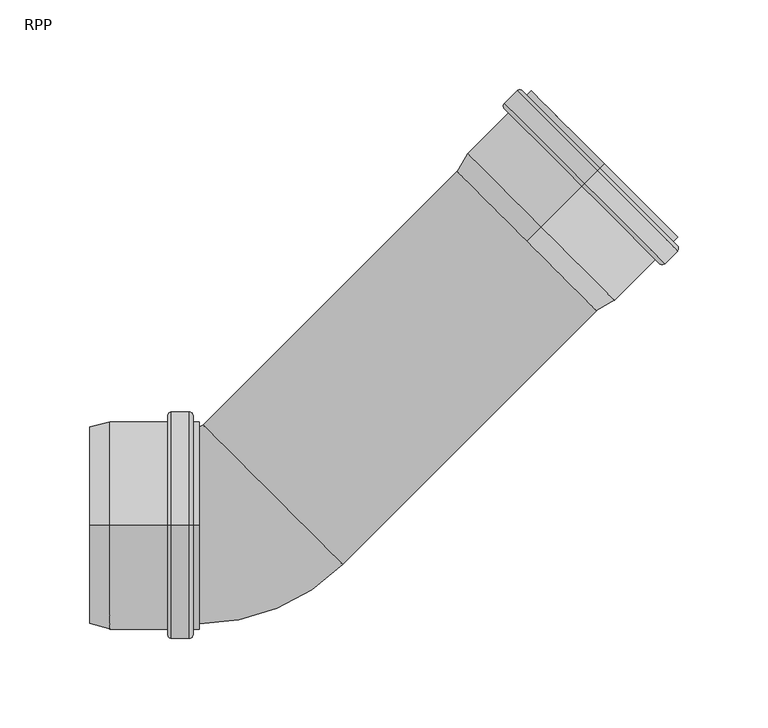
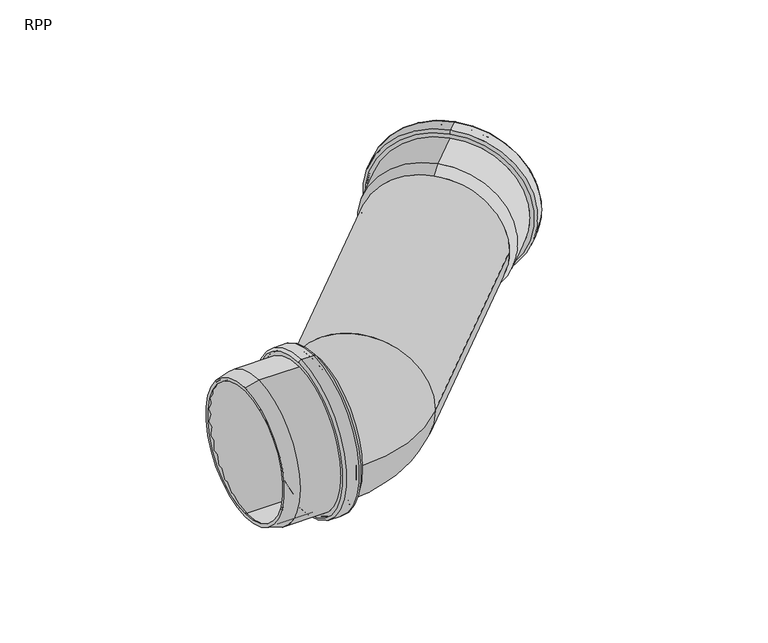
"""IFC4 building model written with IfcOpenShell, lengths in millimetres: pipe fitting geometry, RAUPIANO PLUS Deflection Bend : RPP."""

import ifcopenshell
import ifcopenshell.guid

model = None  # the IFC model being written
_history = None  # IfcOwnerHistory: only IFC2X3 demands one
_inside = {}  # id of a spatial element -> (the spatial element, [elements in it])
_under = {}  # id of a project, library or spatial element -> (it, [spatial elements below it])
_declared = {}  # id of a project -> (the project, [libraries it declares])
_typed = {}  # id of a type object -> (the type object, [elements of that type])
_made_of = {}  # id of a material, layer set ... -> (it, [elements and type objects made of it])


def new_model(schema):
    """Start an empty IFC model of exactly this schema.

    Asked for "IFC4X3", IfcOpenShell would pick the latest addendum, in which some entities
    have other attributes; the version numbers below select the first issue.
    IFC2X3 requires an IfcOwnerHistory on every rooted entity: one is made here for all.
    """
    global model, _history
    if schema == "IFC4X3":
        model = ifcopenshell.file(schema_version=(4, 3, 0, 0))
    else:
        model = ifcopenshell.file(schema=schema)
    _inside.clear()
    _under.clear()
    _declared.clear()
    _typed.clear()
    _made_of.clear()
    _history = None
    if model.schema == "IFC2X3":
        org = make("IfcOrganization", Name="unknown")
        user = make(
            "IfcPersonAndOrganization",
            ThePerson=make("IfcPerson", FamilyName="unknown"),
            TheOrganization=org,
        )
        app = make(
            "IfcApplication",
            ApplicationDeveloper=org,
            Version="unknown",
            ApplicationFullName="unknown",
            ApplicationIdentifier="unknown",
        )
        _history = make(
            "IfcOwnerHistory",
            OwningUser=user,
            OwningApplication=app,
            ChangeAction="ADDED",
            CreationDate=0,
        )
    return model


def make(cls, **values):
    """One entity of the class cls with the attributes given. An attribute that is None is left unset."""
    return model.create_entity(
        cls, **{name: value for name, value in values.items() if value is not None}
    )


def rooted(cls, **values):
    """An entity with a GlobalId (a new one), such as an element, a storey or a relation."""
    return make(cls, GlobalId=ifcopenshell.guid.new(), OwnerHistory=_history, **values)


def si_unit(unit_type, name, prefix=None):
    """IfcSIUnit, for example si_unit("LENGTHUNIT", "METRE", prefix="MILLI")."""
    return make("IfcSIUnit", UnitType=unit_type, Prefix=prefix, Name=name)


def assignment(units):
    """IfcUnitAssignment: the units of a project."""
    return None if units is None else make("IfcUnitAssignment", Units=units)


def point(xyz):
    """IfcCartesianPoint."""
    return None if xyz is None else make("IfcCartesianPoint", Coordinates=xyz)


def direction(xyz):
    """IfcDirection."""
    return None if xyz is None else make("IfcDirection", DirectionRatios=xyz)


def frame(location, z_axis=None, x_axis=None):
    """IfcAxis2Placement3D, a coordinate frame: its origin and axes. An axis left out is left unset."""
    return make(
        "IfcAxis2Placement3D",
        Location=point(location),
        Axis=direction(z_axis),
        RefDirection=direction(x_axis),
    )


def origin():
    """The frame at (0, 0, 0) with its axes left unset."""
    return frame((0.0, 0.0, 0.0))


def place(relative_to, where):
    """IfcLocalPlacement: puts the frame where relative to a parent placement (None: the world)."""
    return make(
        "IfcLocalPlacement", PlacementRelTo=relative_to, RelativePlacement=where
    )


def context(
    kind, dimensions, precision=None, world=None, true_north=None, identifier=None
):
    """IfcGeometricRepresentationContext, for example the 3D "Model" context."""
    return make(
        "IfcGeometricRepresentationContext",
        ContextIdentifier=identifier,
        ContextType=kind,
        CoordinateSpaceDimension=dimensions,
        Precision=precision,
        WorldCoordinateSystem=world,
        TrueNorth=true_north,
    )


def project(units=None, contexts=None):
    """IfcProject with its units and contexts."""
    return rooted(
        "IfcProject",
        Name="project",
        RepresentationContexts=contexts,
        UnitsInContext=assignment(units),
    )


def spatial(cls, under=None, at=None, **own):
    """A site, building, storey or space (cls), placed at a placement, below another one or the project."""
    s = rooted(cls, ObjectPlacement=at, **own)
    if under is not None:
        _under.setdefault(under.id(), (under, []))[1].append(s)
    return s


def polyline(points):
    """IfcPolyline through the points."""
    return make("IfcPolyline", Points=[point(p) for p in points])


def circle_curve(where, radius):
    """IfcCircle in the frame where."""
    return make("IfcCircle", Position=where, Radius=radius)


def ellipse_curve(where, semi_axis1, semi_axis2):
    """IfcEllipse in the frame where."""
    return make(
        "IfcEllipse", Position=where, SemiAxis1=semi_axis1, SemiAxis2=semi_axis2
    )


def trimmed(basis, trim1, trim2, sense, master):
    """IfcTrimmedCurve: the piece of a basis curve between two trims."""
    return make(
        "IfcTrimmedCurve",
        BasisCurve=basis,
        Trim1=trim1,
        Trim2=trim2,
        SenseAgreement=sense,
        MasterRepresentation=master,
    )


def shape(context_of_items, identifier, shape_type, items):
    """IfcShapeRepresentation: the items that make up one representation, for example the "Body"."""
    return make(
        "IfcShapeRepresentation",
        ContextOfItems=context_of_items,
        RepresentationIdentifier=identifier,
        RepresentationType=shape_type,
        Items=items,
    )


def source(mapping_origin, context_of_items, identifier, shape_type, items):
    """IfcRepresentationMap: a shape defined once, which mapped items show again and again."""
    return make(
        "IfcRepresentationMap",
        MappingOrigin=mapping_origin,
        MappedRepresentation=shape(context_of_items, identifier, shape_type, items),
    )


def transform(
    local_origin,
    x_axis=None,
    y_axis=None,
    z_axis=None,
    scale=None,
    scale2=None,
    scale3=None,
    uniform=True,
):
    """IfcCartesianTransformationOperator3D, or its non-uniform kind. x_axis, y_axis, z_axis: its Axis1, 2, 3."""
    if uniform:
        return make(
            "IfcCartesianTransformationOperator3D",
            Axis1=direction(x_axis),
            Axis2=direction(y_axis),
            LocalOrigin=point(local_origin),
            Scale=scale,
            Axis3=direction(z_axis),
        )
    return make(
        "IfcCartesianTransformationOperator3DnonUniform",
        Axis1=direction(x_axis),
        Axis2=direction(y_axis),
        LocalOrigin=point(local_origin),
        Scale=scale,
        Axis3=direction(z_axis),
        Scale2=scale2,
        Scale3=scale3,
    )


def mapped(mapping_source, mapping_target):
    """IfcMappedItem: shows the shape of a source again, moved by a transform."""
    return make(
        "IfcMappedItem", MappingSource=mapping_source, MappingTarget=mapping_target
    )


def made_of(thing, what):
    """Note that an element or type object is made of a material, layer set ...; save() writes the relation."""
    if what is not None:
        _made_of.setdefault(what.id(), (what, []))[1].append(thing)
    return thing


def element(
    cls,
    number,
    at=None,
    inside=None,
    cuts=None,
    type_object=None,
    material=None,
    context=None,
    identifier="Body",
    shape_type=None,
    held_by="IfcProductDefinitionShape",
    body=None,
    shapes=None,
    **own,
):
    """One element of the class cls, such as IfcWall. Its Tag is "e" and its number.

    at: its placement. inside: the storey or other place that contains it. cuts: it is an
    opening in that element (IfcRelVoidsElement). A single representation is given by context,
    identifier, shape_type and body (its items); several are given by shapes. held_by: the class
    of the entity that holds the representations. save() writes the other relations.
    """
    e = rooted(cls, Tag="e%d" % number, ObjectPlacement=at, **own)
    if body is not None:
        shapes = [shape(context, identifier, shape_type, body)]
    if shapes is not None:
        e.Representation = make(held_by, Representations=shapes)
    if inside is not None:
        _inside.setdefault(inside.id(), (inside, []))[1].append(e)
    if cuts is not None:
        rooted(
            "IfcRelVoidsElement", RelatingBuildingElement=cuts, RelatedOpeningElement=e
        )
    if type_object is not None:
        _typed.setdefault(type_object.id(), (type_object, []))[1].append(e)
    return made_of(e, material)


def aggregate(whole, parts):
    """IfcRelAggregates: a whole, such as a stair, and the parts it consists of."""
    return rooted("IfcRelAggregates", RelatingObject=whole, RelatedObjects=parts)


def save(model, path):
    """Write the relations noted so far, then the file.

    IfcRelAggregates (storeys below a building ...), IfcRelContainedInSpatialStructure (elements
    in a storey), IfcRelDefinesByType, IfcRelAssociatesMaterial and IfcRelDeclares: one each for
    every whole, place, type object, material and project.
    """
    for whole, parts in _under.values():
        aggregate(whole, parts)
    for where, things in _inside.values():
        rooted(
            "IfcRelContainedInSpatialStructure",
            RelatedElements=things,
            RelatingStructure=where,
        )
    for kind, things in _typed.values():
        rooted("IfcRelDefinesByType", RelatedObjects=things, RelatingType=kind)
    for what, things in _made_of.values():
        rooted("IfcRelAssociatesMaterial", RelatedObjects=things, RelatingMaterial=what)
    for by, libraries in _declared.values():
        rooted("IfcRelDeclares", RelatingContext=by, RelatedDefinitions=libraries)
    model.write(path)


def plane_surface(at):
    """IfcPlane: the flat surface through the origin of the frame at, square to its z axis."""
    return make("IfcPlane", Position=at)


def cylinder_surface(at, radius):
    """IfcCylindricalSurface: all points at the distance radius from the z axis of the frame at."""
    return make("IfcCylindricalSurface", Position=at, Radius=radius)


def revolved_surface(curve, axis_point, axis_direction):
    """IfcSurfaceOfRevolution: the curve turned about the line through axis_point along axis_direction."""
    return make(
        "IfcSurfaceOfRevolution",
        SweptCurve=make("IfcArbitraryOpenProfileDef", ProfileType="CURVE", Curve=curve),
        AxisPosition=make("IfcAxis1Placement", Location=point(axis_point), Axis=direction(axis_direction)),
    )


def advanced_brep(points, edges, surfaces, faces):
    """IfcAdvancedBrep: a solid bounded by faces that lie on surfaces and meet in shared edges.

    An edge is (start, end): straight between two places in points (the first is 0);
    or (start, end, curve); or (start, end, curve, False) where it runs against its curve.
    A face is (place in surfaces, loops), or (place, loops, False) where it looks against
    its surface's normal. A loop lists edges by number (the first is 1), with a minus sign
    where the edge is run from its end to its start. The first loop is the outer one.
    """
    corners = [point(p) for p in points]
    vertices = [make("IfcVertexPoint", VertexGeometry=c) for c in corners]
    made = []
    for start, end, *more in edges:
        made.append(
            make(
                "IfcEdgeCurve",
                EdgeStart=vertices[start],
                EdgeEnd=vertices[end],
                EdgeGeometry=more[0] if more else make("IfcPolyline", Points=[corners[start], corners[end]]),
                SameSense=more[1] if len(more) > 1 else True,
            )
        )
    hull = []
    for where, loops, *sense in faces:
        bounds = []
        for j, loop in enumerate(loops):
            ring = [make("IfcOrientedEdge", EdgeElement=made[abs(k) - 1], Orientation=k > 0) for k in loop]
            bounds.append(
                make(
                    "IfcFaceOuterBound" if j == 0 else "IfcFaceBound",
                    Bound=make("IfcEdgeLoop", EdgeList=ring),
                    Orientation=True,
                )
            )
        hull.append(make("IfcAdvancedFace", Bounds=bounds, FaceSurface=surfaces[where], SameSense=sense[0] if sense else True))
    return make("IfcAdvancedBrep", Outer=make("IfcClosedShell", CfsFaces=hull))


def rpp_50d5fbeb(model_context):
    return source(origin(), model_context, "Body", "AdvancedBrep", [
        advanced_brep(
        [(-38.9243866, 0.0, 55.3), (-38.9243866, 0.0, -55.3), (-73.5727725, 0.0, -55.3), (-73.5727725, 0.0, 55.3), (-38.4243866, 0.0, 60.7), (-38.4243866, 0.0, -60.7), (-38.9243866, 0.0, -60.2), (-38.9243866, 0.0, 60.2), (-30.7243866, 0.0, 60.7), (-30.7243866, 0.0, -60.7), (-30.2243866, 0.0, 60.2), (-30.2243866, 0.0, -60.2), (-24.0243866, 0.0, 55.3), (-24.0243866, 0.0, -55.3), (-30.2243866, 0.0, -55.3), (-30.2243866, 0.0, 55.3), (-27.5243866, 0.0, 58.0), (-27.5243866, 0.0, -58.0), (-24.0243866, 0.0, -58.0), (-24.0243866, 0.0, 58.0), (-29.5243866, 0.0, 63.4), (-29.5243866, 0.0, -63.4), (-27.5243866, 0.0, -61.4), (-27.5243866, 0.0, 61.4), (-39.6243866, 0.0, 63.4), (-39.6243866, 0.0, -63.4), (-41.6243866, 0.0, 61.4), (-41.6243866, 0.0, -61.4), (-73.9282342, 0.0, 58.0), (-73.9282342, 0.0, -58.0), (-41.6243866, 0.0, -58.0), (-41.6243866, 0.0, 58.0), (-85.1243866, 0.0, 55.0), (-85.1243866, 0.0, -55.0), (-85.1243866, 0.0, -52.2047543), (-85.1243866, 0.0, 52.2047543)],
        [
            (0, 1, circle_curve(frame((-38.9243866, 0.0, 0.0), z_axis=(1.0, 0.0, 0.0), x_axis=(0.0, 0.0, -1.0)), 55.3)),
            (1, 2),
            (2, 3, circle_curve(frame((-73.5727725, 0.0, 0.0), z_axis=(-1.0, 0.0, 0.0), x_axis=(0.0, 0.0, -1.0)), 55.3)),
            (3, 0),
            (4, 5, circle_curve(frame((-38.4243866, 0.0, 0.0), z_axis=(1.0, 0.0, 0.0), x_axis=(0.0, 0.0, -1.0)), 60.7)),
            (5, 6, circle_curve(frame((-38.4243866, 0.0, -60.2), z_axis=(0.0, 1.0, 0.0), x_axis=(0.0, 0.0, 1.0)), 0.5)),
            (6, 7, circle_curve(frame((-38.9243866, 0.0, 0.0), z_axis=(-1.0, 0.0, 0.0), x_axis=(0.0, 0.0, -1.0)), 60.2)),
            (7, 4, circle_curve(frame((-38.4243866, 0.0, 60.2), z_axis=(0.0, 1.0, 0.0), x_axis=(0.0, 0.0, -1.0)), 0.5)),
            (8, 9, circle_curve(frame((-30.7243866, 0.0, 0.0), z_axis=(1.0, 0.0, 0.0), x_axis=(0.0, 0.0, -1.0)), 60.7)),
            (9, 5),
            (4, 8),
            (10, 11, circle_curve(frame((-30.2243866, 0.0, 0.0), z_axis=(1.0, 0.0, 0.0), x_axis=(0.0, 0.0, -1.0)), 60.2)),
            (11, 9, circle_curve(frame((-30.7243866, 0.0, -60.2), z_axis=(0.0, 1.0, 0.0), x_axis=(0.0, 0.0, 1.0)), 0.5)),
            (8, 10, circle_curve(frame((-30.7243866, 0.0, 60.2), z_axis=(0.0, 1.0, 0.0), x_axis=(0.0, 0.0, -1.0)), 0.5)),
            (12, 13, circle_curve(frame((-24.0243866, 0.0, 0.0), z_axis=(1.0, 0.0, 0.0), x_axis=(0.0, 0.0, -1.0)), 55.3)),
            (13, 14),
            (14, 15, circle_curve(frame((-30.2243866, 0.0, 0.0), z_axis=(-1.0, 0.0, 0.0), x_axis=(0.0, 0.0, -1.0)), 55.3)),
            (15, 12),
            (16, 17, circle_curve(frame((-27.5243866, 0.0, 0.0), z_axis=(1.0, 0.0, 0.0), x_axis=(0.0, 0.0, -1.0)), 58.0)),
            (17, 18),
            (18, 19, circle_curve(frame((-24.0243866, 0.0, 0.0), z_axis=(-1.0, 0.0, 0.0), x_axis=(0.0, 0.0, -1.0)), 58.0)),
            (19, 16),
            (20, 21, circle_curve(frame((-29.5243866, 0.0, 0.0), z_axis=(1.0, 0.0, 0.0), x_axis=(0.0, 0.0, -1.0)), 63.4)),
            (21, 22, circle_curve(frame((-29.5243866, 0.0, -61.4), z_axis=(0.0, -1.0, 0.0), x_axis=(0.0, 0.0, 1.0)), 2.0)),
            (22, 23, circle_curve(frame((-27.5243866, 0.0, 0.0), z_axis=(-1.0, 0.0, 0.0), x_axis=(0.0, 0.0, -1.0)), 61.4)),
            (23, 20, circle_curve(frame((-29.5243866, 0.0, 61.4), z_axis=(0.0, -1.0, 0.0), x_axis=(0.0, 0.0, -1.0)), 2.0)),
            (24, 25, circle_curve(frame((-39.6243866, 0.0, 0.0), z_axis=(1.0, 0.0, 0.0), x_axis=(0.0, 0.0, -1.0)), 63.4)),
            (25, 21),
            (20, 24),
            (26, 27, circle_curve(frame((-41.6243866, 0.0, 0.0), z_axis=(1.0, 0.0, 0.0), x_axis=(0.0, 0.0, -1.0)), 61.4)),
            (27, 25, circle_curve(frame((-39.6243866, 0.0, -61.4), z_axis=(0.0, -1.0, 0.0), x_axis=(0.0, 0.0, 1.0)), 2.0)),
            (24, 26, circle_curve(frame((-39.6243866, 0.0, 61.4), z_axis=(0.0, -1.0, 0.0), x_axis=(0.0, 0.0, -1.0)), 2.0)),
            (28, 29, circle_curve(frame((-73.9282342, 0.0, 0.0), z_axis=(1.0, 0.0, 0.0), x_axis=(0.0, 0.0, -1.0)), 58.0)),
            (29, 30),
            (30, 31, circle_curve(frame((-41.6243866, 0.0, 0.0), z_axis=(-1.0, 0.0, 0.0), x_axis=(0.0, 0.0, -1.0)), 58.0)),
            (31, 28),
            (32, 33, circle_curve(frame((-85.1243866, 0.0, 0.0), z_axis=(1.0, 0.0, 0.0), x_axis=(0.0, 0.0, -1.0)), 55.0)),
            (33, 29),
            (28, 32),
            (2, 34),
            (34, 35, circle_curve(frame((-85.1243866, 0.0, 0.0), z_axis=(-1.0, 0.0, 0.0), x_axis=(0.0, 0.0, -1.0)), 52.2047543)),
            (35, 3),
            (1, 0, circle_curve(frame((-38.9243866, 0.0, 0.0), z_axis=(1.0, 0.0, 0.0), x_axis=(0.0, 0.0, 1.0)), 55.3)),
            (3, 2, circle_curve(frame((-73.5727725, 0.0, 0.0), z_axis=(-1.0, 0.0, 0.0), x_axis=(0.0, 0.0, 1.0)), 55.3)),
            (6, 7, circle_curve(frame((-38.9243866, 0.0, 0.0), z_axis=(1.0, 0.0, 0.0), x_axis=(0.0, 0.0, 1.0)), 60.2)),
            (5, 4, circle_curve(frame((-38.4243866, 0.0, 0.0), z_axis=(1.0, 0.0, 0.0), x_axis=(0.0, 0.0, 1.0)), 60.7)),
            (9, 8, circle_curve(frame((-30.7243866, 0.0, 0.0), z_axis=(1.0, 0.0, 0.0), x_axis=(0.0, 0.0, 1.0)), 60.7)),
            (11, 10, circle_curve(frame((-30.2243866, 0.0, 0.0), z_axis=(1.0, 0.0, 0.0), x_axis=(0.0, 0.0, 1.0)), 60.2)),
            (14, 15, circle_curve(frame((-30.2243866, 0.0, 0.0), z_axis=(1.0, 0.0, 0.0), x_axis=(0.0, 0.0, 1.0)), 55.3)),
            (13, 12, circle_curve(frame((-24.0243866, 0.0, 0.0), z_axis=(1.0, 0.0, 0.0), x_axis=(0.0, 0.0, 1.0)), 55.3)),
            (18, 19, circle_curve(frame((-24.0243866, 0.0, 0.0), z_axis=(1.0, 0.0, 0.0), x_axis=(0.0, 0.0, 1.0)), 58.0)),
            (17, 16, circle_curve(frame((-27.5243866, 0.0, 0.0), z_axis=(1.0, 0.0, 0.0), x_axis=(0.0, 0.0, 1.0)), 58.0)),
            (22, 23, circle_curve(frame((-27.5243866, 0.0, 0.0), z_axis=(1.0, 0.0, 0.0), x_axis=(0.0, 0.0, 1.0)), 61.4)),
            (21, 20, circle_curve(frame((-29.5243866, 0.0, 0.0), z_axis=(1.0, 0.0, 0.0), x_axis=(0.0, 0.0, 1.0)), 63.4)),
            (25, 24, circle_curve(frame((-39.6243866, 0.0, 0.0), z_axis=(1.0, 0.0, 0.0), x_axis=(0.0, 0.0, 1.0)), 63.4)),
            (27, 26, circle_curve(frame((-41.6243866, 0.0, 0.0), z_axis=(1.0, 0.0, 0.0), x_axis=(0.0, 0.0, 1.0)), 61.4)),
            (30, 31, circle_curve(frame((-41.6243866, 0.0, 0.0), z_axis=(1.0, 0.0, 0.0), x_axis=(0.0, 0.0, 1.0)), 58.0)),
            (29, 28, circle_curve(frame((-73.9282342, 0.0, 0.0), z_axis=(1.0, 0.0, 0.0), x_axis=(0.0, 0.0, 1.0)), 58.0)),
            (33, 32, circle_curve(frame((-85.1243866, 0.0, 0.0), z_axis=(1.0, 0.0, 0.0), x_axis=(0.0, 0.0, 1.0)), 55.0)),
            (34, 35, circle_curve(frame((-85.1243866, 0.0, 0.0), z_axis=(1.0, 0.0, 0.0), x_axis=(0.0, 0.0, 1.0)), 52.2047543)),
        ],
        [
            revolved_surface(polyline([(-73.5727725, 0.0, -55.3), (-38.9243866, 0.0, -55.3)]), (-85.1243866, 0.0, 0.0), (-1.0, 0.0, 0.0)),
            revolved_surface(trimmed(ellipse_curve(frame((-38.4243866, 0.0, -60.2), z_axis=(0.0, -1.0, 0.0), x_axis=(0.0, 0.0, 1.0)), 0.5, 0.5), [point((-38.9243866, 0.0, -60.2))], [point((-38.4243866, 0.0, -60.7))], True, "CARTESIAN"), (-85.1243866, 0.0, 0.0), (-1.0, 0.0, 0.0)),
            revolved_surface(polyline([(-38.4243866, 0.0, -60.7), (-30.724386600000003, 0.0, -60.7)]), (-85.1243866, 0.0, 0.0), (-1.0, 0.0, 0.0)),
            revolved_surface(trimmed(ellipse_curve(frame((-30.7243866, 0.0, -60.2), z_axis=(0.0, -1.0, 0.0), x_axis=(0.0, 0.0, 1.0)), 0.5, 0.5), [point((-30.7243866, 0.0, -60.7))], [point((-30.2243866, 0.0, -60.2))], True, "CARTESIAN"), (-85.1243866, 0.0, 0.0), (-1.0, 0.0, 0.0)),
            revolved_surface(polyline([(-30.224386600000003, 0.0, -55.3), (-24.0243866, 0.0, -55.3)]), (-85.1243866, 0.0, 0.0), (-1.0, 0.0, 0.0)),
            cylinder_surface(frame((-85.1243866, 0.0, 0.0), z_axis=(-1.0, 0.0, 0.0), x_axis=(0.0, 0.0, -1.0)), 58.0),
            revolved_surface(trimmed(ellipse_curve(frame((-29.5243866, 0.0, -61.4), z_axis=(0.0, 1.0, 0.0), x_axis=(0.0, 0.0, 1.0)), 2.0, 2.0), [point((-27.5243866, 0.0, -61.4))], [point((-29.5243866, 0.0, -63.4))], True, "CARTESIAN"), (-85.1243866, 0.0, 0.0), (-1.0, 0.0, 0.0)),
            cylinder_surface(frame((-85.1243866, 0.0, 0.0), z_axis=(-1.0, 0.0, 0.0), x_axis=(0.0, 0.0, -1.0)), 63.4),
            revolved_surface(trimmed(ellipse_curve(frame((-39.6243866, 0.0, -61.4), z_axis=(0.0, 1.0, 0.0), x_axis=(0.0, 0.0, 1.0)), 2.0, 2.0), [point((-39.6243866, 0.0, -63.4))], [point((-41.6243866, 0.0, -61.4))], True, "CARTESIAN"), (-85.1243866, 0.0, 0.0), (-1.0, 0.0, 0.0)),
            revolved_surface(polyline([(-73.9282342, 0.0, -58.0), (-85.1243866, 0.0, -55.0)]), (-85.1243866, 0.0, 0.0), (-1.0, 0.0, 0.0)),
            revolved_surface(polyline([(-85.1243866, 0.0, -52.2047543), (-73.5727725, 0.0, -55.3)]), (-85.1243866, 0.0, 0.0), (-1.0, 0.0, 0.0)),
            revolved_surface(polyline([(-73.5727725, 0.0, 55.3), (-38.9243866, 0.0, 55.3)]), (-85.1243866, 0.0, 0.0), (-1.0, 0.0, 0.0)),
            plane_surface(frame((-38.9243866, 0.0, 0.0), z_axis=(1.0, 0.0, 0.0), x_axis=(0.0, 0.0, 1.0))),
            revolved_surface(trimmed(ellipse_curve(frame((-38.4243866, 0.0, 60.2), z_axis=(0.0, 1.0, 0.0), x_axis=(0.0, 0.0, -1.0)), 0.5, 0.5), [point((-38.9243866, 0.0, 60.2))], [point((-38.4243866, 0.0, 60.7))], True, "CARTESIAN"), (-85.1243866, 0.0, 0.0), (-1.0, 0.0, 0.0)),
            revolved_surface(polyline([(-38.4243866, 0.0, 60.7), (-30.724386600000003, 0.0, 60.7)]), (-85.1243866, 0.0, 0.0), (-1.0, 0.0, 0.0)),
            revolved_surface(trimmed(ellipse_curve(frame((-30.7243866, 0.0, 60.2), z_axis=(0.0, 1.0, 0.0), x_axis=(0.0, 0.0, -1.0)), 0.5, 0.5), [point((-30.7243866, 0.0, 60.7))], [point((-30.2243866, 0.0, 60.2))], True, "CARTESIAN"), (-85.1243866, 0.0, 0.0), (-1.0, 0.0, 0.0)),
            plane_surface(frame((-30.2243866, 0.0, 0.0), z_axis=(-1.0, 0.0, 0.0), x_axis=(0.0, 0.0, 1.0))),
            revolved_surface(polyline([(-30.224386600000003, 0.0, 55.3), (-24.0243866, 0.0, 55.3)]), (-85.1243866, 0.0, 0.0), (-1.0, 0.0, 0.0)),
            plane_surface(frame((-24.0243866, 0.0, 0.0), z_axis=(1.0, 0.0, 0.0), x_axis=(0.0, 0.0, 1.0))),
            cylinder_surface(frame((-85.1243866, 0.0, 0.0), z_axis=(-1.0, 0.0, 0.0), x_axis=(0.0, 0.0, 1.0)), 58.0),
            plane_surface(frame((-27.5243866, 0.0, 0.0), z_axis=(1.0, 0.0, 0.0), x_axis=(0.0, 0.0, 1.0))),
            revolved_surface(trimmed(ellipse_curve(frame((-29.5243866, 0.0, 61.4), z_axis=(0.0, -1.0, 0.0), x_axis=(0.0, 0.0, -1.0)), 2.0, 2.0), [point((-27.5243866, 0.0, 61.4))], [point((-29.5243866, 0.0, 63.4))], True, "CARTESIAN"), (-85.1243866, 0.0, 0.0), (-1.0, 0.0, 0.0)),
            cylinder_surface(frame((-85.1243866, 0.0, 0.0), z_axis=(-1.0, 0.0, 0.0), x_axis=(0.0, 0.0, 1.0)), 63.4),
            revolved_surface(trimmed(ellipse_curve(frame((-39.6243866, 0.0, 61.4), z_axis=(0.0, -1.0, 0.0), x_axis=(0.0, 0.0, -1.0)), 2.0, 2.0), [point((-39.6243866, 0.0, 63.4))], [point((-41.6243866, 0.0, 61.4))], True, "CARTESIAN"), (-85.1243866, 0.0, 0.0), (-1.0, 0.0, 0.0)),
            plane_surface(frame((-41.6243866, 0.0, 0.0), z_axis=(-1.0, 0.0, 0.0), x_axis=(0.0, 0.0, 1.0))),
            revolved_surface(polyline([(-73.9282342, 0.0, 58.0), (-85.1243866, 0.0, 55.0)]), (-85.1243866, 0.0, 0.0), (-1.0, 0.0, 0.0)),
            plane_surface(frame((-85.1243866, 0.0, 0.0), z_axis=(-1.0, 0.0, 0.0), x_axis=(0.0, 0.0, 1.0))),
            revolved_surface(polyline([(-85.1243866, 0.0, 52.2047543), (-73.5727725, 0.0, 55.3)]), (-85.1243866, 0.0, 0.0), (-1.0, 0.0, 0.0)),
        ],
        [
            (0, [[1, 2, 3, 4]]),
            (1, [[5, 6, 7, 8]]),
            (2, [[9, 10, -5, 11]]),
            (3, [[12, 13, -9, 14]]),
            (4, [[15, 16, 17, 18]]),
            (5, [[19, 20, 21, 22]]),
            (6, [[23, 24, 25, 26]]),
            (7, [[27, 28, -23, 29]]),
            (8, [[30, 31, -27, 32]]),
            (5, [[33, 34, 35, 36]]),
            (9, [[37, 38, -33, 39]]),
            (10, [[-3, 40, 41, 42]]),
            (11, [[43, -4, 44, -2]]),
            (12, [[45, -7], [-43, -1]]),
            (13, [[46, -8, -45, -6]]),
            (14, [[47, -11, -46, -10]]),
            (15, [[48, -14, -47, -13]]),
            (16, [[-48, -12], [49, -17]]),
            (17, [[50, -18, -49, -16]]),
            (18, [[51, -21], [-50, -15]]),
            (19, [[52, -22, -51, -20]]),
            (20, [[53, -25], [-52, -19]]),
            (21, [[54, -26, -53, -24]]),
            (22, [[55, -29, -54, -28]]),
            (23, [[56, -32, -55, -31]]),
            (24, [[-56, -30], [57, -35]]),
            (19, [[58, -36, -57, -34]]),
            (25, [[59, -39, -58, -38]]),
            (26, [[-59, -37], [60, -41]]),
            (27, [[-44, -42, -60, -40]]),
        ],
    ),
        advanced_brep(
        [(-24.0243866, 0.0, -52.3), (-85.1243866, 0.0, -52.3), (-85.1243866, 0.0, 52.3), (-24.0243866, 0.0, 52.3), (-24.0243866, -52.3, 0.0), (-81.3923358, 0.0, 55.0), (-81.3923358, 0.0, -55.0), (-24.0243866, 0.0, -55.0), (-24.0243866, -55.0, 0.0), (-24.0243866, 0.0, 55.0), (-85.1243866, 0.0, 54.0), (-85.1243866, 0.0, -54.0), (-24.0243866, 52.3, 0.0), (-24.0243866, 55.0, 0.0), (-19.993878, 53.9694913, 0.0), (53.9694913, -19.993878, 0.0), (16.9878067, 16.9878067, -52.3), (16.9878067, 16.9878067, 52.3), (-21.9030663, 55.8786797, 0.0), (55.8786797, -21.9030663, 0.0), (16.9878067, 16.9878067, 55.0), (16.9878067, 16.9878067, -55.0), (197.3000359, 119.51829, 0.0), (119.51829, 197.3000359, 0.0), (195.3908476, 121.4274783, 0.0), (121.4274783, 195.3908476, 0.0)],
        [
            (0, 1),
            (1, 2, circle_curve(frame((-85.1243866, 0.0, 0.0), z_axis=(-1.0, 0.0, 0.0), x_axis=(0.0, 0.0, -1.0)), 52.3)),
            (2, 3),
            (3, 4, circle_curve(frame((-24.0243866, 0.0, 0.0), z_axis=(1.0, 0.0, 0.0), x_axis=(0.0, 0.0, -1.0)), 52.3)),
            (4, 0, circle_curve(frame((-24.0243866, 0.0, 0.0), z_axis=(1.0, 0.0, 0.0), x_axis=(0.0, 0.0, -1.0)), 52.3)),
            (5, 6, circle_curve(frame((-81.3923358, 0.0, 0.0), z_axis=(1.0, 0.0, 0.0), x_axis=(0.0, 0.0, -1.0)), 55.0)),
            (6, 7),
            (7, 8, circle_curve(frame((-24.0243866, 0.0, 0.0), z_axis=(-1.0, 0.0, 0.0), x_axis=(0.0, 0.0, -1.0)), 55.0)),
            (8, 9, circle_curve(frame((-24.0243866, 0.0, 0.0), z_axis=(-1.0, 0.0, 0.0), x_axis=(0.0, 0.0, -1.0)), 55.0)),
            (9, 5),
            (5, 10),
            (10, 11, circle_curve(frame((-85.1243866, 0.0, 0.0), z_axis=(1.0, 0.0, 0.0), x_axis=(0.0, 0.0, -1.0)), 54.0)),
            (11, 6),
            (0, 12, circle_curve(frame((-24.0243866, 0.0, 0.0), z_axis=(1.0, 0.0, 0.0), x_axis=(0.0, 0.0, 1.0)), 52.3)),
            (12, 3, circle_curve(frame((-24.0243866, 0.0, 0.0), z_axis=(1.0, 0.0, 0.0), x_axis=(0.0, 0.0, 1.0)), 52.3)),
            (2, 1, circle_curve(frame((-85.1243866, 0.0, 0.0), z_axis=(-1.0, 0.0, 0.0), x_axis=(0.0, 0.0, 1.0)), 52.3)),
            (6, 5, circle_curve(frame((-81.3923358, 0.0, 0.0), z_axis=(1.0, 0.0, 0.0), x_axis=(0.0, 0.0, 1.0)), 55.0)),
            (9, 13, circle_curve(frame((-24.0243866, 0.0, 0.0), z_axis=(-1.0, 0.0, 0.0), x_axis=(0.0, 0.0, 1.0)), 55.0)),
            (13, 7, circle_curve(frame((-24.0243866, 0.0, 0.0), z_axis=(-1.0, 0.0, 0.0), x_axis=(0.0, 0.0, 1.0)), 55.0)),
            (11, 10, circle_curve(frame((-85.1243866, 0.0, 0.0), z_axis=(1.0, 0.0, 0.0), x_axis=(0.0, 0.0, 1.0)), 54.0)),
            (14, 12, circle_curve(frame((-24.0243866, 58.0, 0.0), z_axis=(0.0, 0.0, -1.0), x_axis=(0.0, -1.0, 0.0)), 5.7)),
            (4, 15, circle_curve(frame((-24.0243866, 58.0, 0.0), z_axis=(0.0, 0.0, 1.0), x_axis=(0.0, -1.0, 0.0)), 110.3)),
            (15, 16, circle_curve(frame((16.9878067, 16.9878067, 0.0), z_axis=(0.7071067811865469, 0.7071067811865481, 0.0), x_axis=(-0.7071067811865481, 0.7071067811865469, 0.0)), 52.3)),
            (16, 14, circle_curve(frame((16.9878067, 16.9878067, 0.0), z_axis=(0.7071067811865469, 0.7071067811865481, 0.0), x_axis=(-0.7071067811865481, 0.7071067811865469, 0.0)), 52.3)),
            (14, 17, circle_curve(frame((16.9878067, 16.9878067, 0.0), z_axis=(0.7071067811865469, 0.7071067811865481, 0.0), x_axis=(-0.7071067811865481, 0.7071067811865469, 0.0)), 52.3)),
            (17, 15, circle_curve(frame((16.9878067, 16.9878067, 0.0), z_axis=(0.7071067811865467, 0.7071067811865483, 0.0), x_axis=(-0.7071067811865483, 0.7071067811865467, 0.0)), 52.3)),
            (18, 13, circle_curve(frame((-24.0243866, 58.0, 0.0), z_axis=(0.0, 0.0, -1.0), x_axis=(0.0, -1.0, 0.0)), 3.0)),
            (8, 19, circle_curve(frame((-24.0243866, 58.0, 0.0), z_axis=(0.0, 0.0, 1.0), x_axis=(0.0, -1.0, 0.0)), 113.0)),
            (19, 20, circle_curve(frame((16.9878067, 16.9878067, 0.0), z_axis=(-0.7071067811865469, -0.7071067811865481, 0.0), x_axis=(-0.7071067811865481, 0.7071067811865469, 0.0)), 55.0)),
            (20, 18, circle_curve(frame((16.9878067, 16.9878067, 0.0), z_axis=(-0.7071067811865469, -0.7071067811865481, 0.0), x_axis=(-0.7071067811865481, 0.7071067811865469, 0.0)), 55.0)),
            (18, 21, circle_curve(frame((16.9878067, 16.9878067, 0.0), z_axis=(-0.7071067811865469, -0.7071067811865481, 0.0), x_axis=(-0.7071067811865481, 0.7071067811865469, 0.0)), 55.0)),
            (21, 19, circle_curve(frame((16.9878067, 16.9878067, 0.0), z_axis=(-0.7071067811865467, -0.7071067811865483, 0.0), x_axis=(-0.7071067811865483, 0.7071067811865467, 0.0)), 55.0)),
            (22, 23, circle_curve(frame((158.4091629, 158.4091629, 0.0), z_axis=(0.7071067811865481, 0.707106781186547, 0.0), x_axis=(-0.707106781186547, 0.7071067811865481, 0.0)), 55.0)),
            (23, 22, circle_curve(frame((158.4091629, 158.4091629, 0.0), z_axis=(0.7071067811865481, 0.707106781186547, 0.0), x_axis=(-0.707106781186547, 0.7071067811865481, 0.0)), 55.0)),
            (24, 25, circle_curve(frame((158.4091629, 158.4091629, 0.0), z_axis=(-0.7071067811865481, -0.707106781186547, 0.0), x_axis=(-0.707106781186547, 0.7071067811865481, 0.0)), 52.3)),
            (25, 24, circle_curve(frame((158.4091629, 158.4091629, 0.0), z_axis=(-0.7071067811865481, -0.707106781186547, 0.0), x_axis=(-0.707106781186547, 0.7071067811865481, 0.0)), 52.3)),
            (25, 14),
            (15, 24),
            (23, 18),
            (19, 22),
        ],
        [
            revolved_surface(polyline([(-85.1243866, 0.0, -52.3), (-24.0243866, 0.0, -52.3)]), (-24.0243866, 0.0, 0.0), (-1.0, 0.0, 0.0)),
            cylinder_surface(frame((-24.0243866, 0.0, 0.0), z_axis=(-1.0, 0.0, 0.0), x_axis=(0.0, 0.0, -1.0)), 55.0),
            revolved_surface(polyline([(-81.3923358, 0.0, -55.0), (-85.1243866, 0.0, -54.0)]), (-24.0243866, 0.0, 0.0), (-1.0, 0.0, 0.0)),
            revolved_surface(polyline([(-85.1243866, 0.0, 52.3), (-24.0243866, 0.0, 52.3)]), (-24.0243866, 0.0, 0.0), (-1.0, 0.0, 0.0)),
            cylinder_surface(frame((-24.0243866, 0.0, 0.0), z_axis=(-1.0, 0.0, 0.0), x_axis=(0.0, 0.0, 1.0)), 55.0),
            revolved_surface(polyline([(-81.3923358, 0.0, 55.0), (-85.1243866, 0.0, 54.0)]), (-24.0243866, 0.0, 0.0), (-1.0, 0.0, 0.0)),
            plane_surface(frame((-85.1243866, 0.0, 0.0), z_axis=(-1.0, 0.0, 0.0), x_axis=(0.0, 0.0, 1.0))),
            revolved_surface(trimmed(ellipse_curve(frame((-24.0243866, 0.0, 0.0), z_axis=(1.0, 0.0, 0.0), x_axis=(0.0, 1.0, 0.0)), 52.3, 52.3), [point((-24.0243866, -52.3, 0.0))], [point((-24.0243866, 52.3, 0.0))], True, "CARTESIAN"), (-24.0243866, 58.0, 0.0), (0.0, 0.0, 1.0)),
            revolved_surface(trimmed(ellipse_curve(frame((-24.0243866, 0.0, 0.0), z_axis=(1.0, 0.0, 0.0), x_axis=(0.0, 1.0, 0.0)), 52.3, 52.3), [point((-24.0243866, 52.3, 0.0))], [point((-24.0243866, -52.3, 0.0))], True, "CARTESIAN"), (-24.0243866, 58.0, 0.0), (0.0, 0.0, 1.0)),
            revolved_surface(trimmed(ellipse_curve(frame((-24.0243866, 0.0, 0.0), z_axis=(-1.0, 0.0, 0.0), x_axis=(0.0, 1.0, 0.0)), 55.0, 55.0), [point((-24.0243866, -55.0, 0.0))], [point((-24.0243866, 55.0, 0.0))], True, "CARTESIAN"), (-24.0243866, 58.0, 0.0), (0.0, 0.0, 1.0)),
            revolved_surface(trimmed(ellipse_curve(frame((-24.0243866, 0.0, 0.0), z_axis=(-1.0, 0.0, 0.0), x_axis=(0.0, 1.0, 0.0)), 55.0, 55.0), [point((-24.0243866, 55.0, 0.0))], [point((-24.0243866, -55.0, 0.0))], True, "CARTESIAN"), (-24.0243866, 58.0, 0.0), (0.0, 0.0, 1.0)),
            plane_surface(frame((158.4091629, 158.4091629, 0.0), z_axis=(0.7071067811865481, 0.707106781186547, 0.0), x_axis=(0.0, 0.0, 1.0))),
            revolved_surface(polyline([(121.42747829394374, 195.39084760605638, 0.0), (-19.99387800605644, 53.96949130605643, 0.0)]), (16.9878067, 16.9878067, 0.0), (0.7071067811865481, 0.707106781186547, 0.0)),
            cylinder_surface(frame((16.9878067, 16.9878067, 0.0), z_axis=(-0.7071067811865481, -0.707106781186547, 0.0), x_axis=(-0.707106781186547, 0.7071067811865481, 0.0)), 55.0),
        ],
        [
            (0, [[1, 2, 3, 4, 5]]),
            (1, [[6, 7, 8, 9, 10]]),
            (2, [[-6, 11, 12, 13]]),
            (3, [[-1, 14, 15, -3, 16]]),
            (4, [[-7, 17, -10, 18, 19]]),
            (5, [[-13, 20, -11, -17]]),
            (6, [[-12, -20], [-2, -16]]),
            (7, [[21, -14, -5, 22, 23, 24]]),
            (8, [[-21, 25, 26, -22, -4, -15]]),
            (9, [[27, -18, -9, 28, 29, 30]]),
            (10, [[-27, 31, 32, -28, -8, -19]]),
            (11, [[33, 34], [35, 36]]),
            (12, [[-36, 37, -24, -23, 38]]),
            (12, [[-35, -38, -26, -25, -37]]),
            (13, [[-34, 39, -30, -29, 40]]),
            (13, [[-33, -40, -32, -31, -39]]),
        ],
    ),
        advanced_brep(
        [(158.4091629, 158.4091629, 52.2047543), (158.4091629, 158.4091629, -52.2047543), (166.5773876, 166.5773876, -55.3), (166.5773876, 166.5773876, 55.3), (166.3260382, 166.3260382, 58.0), (166.3260382, 166.3260382, -58.0), (158.4091629, 158.4091629, -55.0), (158.4091629, 158.4091629, 55.0), (189.1683079, 189.1683079, 58.0), (189.1683079, 189.1683079, -58.0), (190.5825215, 190.5825215, 63.4), (190.5825215, 190.5825215, -63.4), (189.1683079, 189.1683079, -61.4), (189.1683079, 189.1683079, 61.4), (197.7243, 197.7243, 63.4), (197.7243, 197.7243, -63.4), (199.1385135, 199.1385135, 61.4), (199.1385135, 199.1385135, -61.4), (201.6133873, 201.6133873, 58.0), (201.6133873, 201.6133873, -58.0), (199.1385135, 199.1385135, -58.0), (199.1385135, 199.1385135, 58.0), (197.2293252, 197.2293252, 55.3), (197.2293252, 197.2293252, -55.3), (201.6133873, 201.6133873, -55.3), (201.6133873, 201.6133873, 55.3), (196.8757718, 196.8757718, 60.7), (196.8757718, 196.8757718, -60.7), (197.2293252, 197.2293252, -60.2), (197.2293252, 197.2293252, 60.2), (191.4310496, 191.4310496, 60.7), (191.4310496, 191.4310496, -60.7), (191.0774962, 191.0774962, 60.2), (191.0774962, 191.0774962, -60.2), (191.0774962, 191.0774962, -55.3), (191.0774962, 191.0774962, 55.3)],
        [
            (0, 1, circle_curve(frame((158.4091629, 158.4091629, 0.0), z_axis=(-0.7071067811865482, -0.7071067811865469, 0.0), x_axis=(0.0, 0.0, -1.0)), 52.2047543)),
            (1, 2),
            (2, 3, circle_curve(frame((166.5773876, 166.5773876, 0.0), z_axis=(0.7071067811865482, 0.7071067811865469, 0.0), x_axis=(0.0, 0.0, -1.0)), 55.3)),
            (3, 0),
            (4, 5, circle_curve(frame((166.3260382, 166.3260382, 0.0), z_axis=(-0.7071067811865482, -0.7071067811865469, 0.0), x_axis=(0.0, 0.0, -1.0)), 58.0)),
            (5, 6),
            (6, 7, circle_curve(frame((158.4091629, 158.4091629, 0.0), z_axis=(0.7071067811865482, 0.7071067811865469, 0.0), x_axis=(0.0, 0.0, -1.0)), 55.0)),
            (7, 4),
            (8, 9, circle_curve(frame((189.1683079, 189.1683079, 0.0), z_axis=(-0.7071067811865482, -0.7071067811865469, 0.0), x_axis=(0.0, 0.0, -1.0)), 58.0)),
            (9, 5),
            (4, 8),
            (10, 11, circle_curve(frame((190.5825215, 190.5825215, 0.0), z_axis=(-0.7071067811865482, -0.7071067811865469, 0.0), x_axis=(0.0, 0.0, -1.0)), 63.4)),
            (11, 12, circle_curve(frame((190.5825215, 190.5825215, -61.4), z_axis=(-0.7071067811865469, 0.7071067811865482, 0.0), x_axis=(0.0, 0.0, 1.0)), 2.0)),
            (12, 13, circle_curve(frame((189.1683079, 189.1683079, 0.0), z_axis=(0.7071067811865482, 0.7071067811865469, 0.0), x_axis=(0.0, 0.0, -1.0)), 61.4)),
            (13, 10, circle_curve(frame((190.5825215, 190.5825215, 61.4), z_axis=(-0.7071067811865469, 0.7071067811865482, 0.0), x_axis=(0.0, 0.0, -1.0)), 2.0)),
            (14, 15, circle_curve(frame((197.7243, 197.7243, 0.0), z_axis=(-0.7071067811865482, -0.7071067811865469, 0.0), x_axis=(0.0, 0.0, -1.0)), 63.4)),
            (15, 11),
            (10, 14),
            (16, 17, circle_curve(frame((199.1385135, 199.1385135, 0.0), z_axis=(-0.7071067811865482, -0.7071067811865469, 0.0), x_axis=(0.0, 0.0, -1.0)), 61.4)),
            (17, 15, circle_curve(frame((197.7243, 197.7243, -61.4), z_axis=(-0.7071067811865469, 0.7071067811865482, 0.0), x_axis=(0.0, 0.0, 1.0)), 2.0)),
            (14, 16, circle_curve(frame((197.7243, 197.7243, 61.4), z_axis=(-0.7071067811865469, 0.7071067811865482, 0.0), x_axis=(0.0, 0.0, -1.0)), 2.0)),
            (18, 19, circle_curve(frame((201.6133873, 201.6133873, 0.0), z_axis=(-0.7071067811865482, -0.7071067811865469, 0.0), x_axis=(0.0, 0.0, -1.0)), 58.0)),
            (19, 20),
            (20, 21, circle_curve(frame((199.1385135, 199.1385135, 0.0), z_axis=(0.7071067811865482, 0.7071067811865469, 0.0), x_axis=(0.0, 0.0, -1.0)), 58.0)),
            (21, 18),
            (22, 23, circle_curve(frame((197.2293252, 197.2293252, 0.0), z_axis=(-0.7071067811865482, -0.7071067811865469, 0.0), x_axis=(0.0, 0.0, -1.0)), 55.3)),
            (23, 24),
            (24, 25, circle_curve(frame((201.6133873, 201.6133873, 0.0), z_axis=(0.7071067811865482, 0.7071067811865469, 0.0), x_axis=(0.0, 0.0, -1.0)), 55.3)),
            (25, 22),
            (26, 27, circle_curve(frame((196.8757718, 196.8757718, 0.0), z_axis=(-0.7071067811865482, -0.7071067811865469, 0.0), x_axis=(0.0, 0.0, -1.0)), 60.7)),
            (27, 28, circle_curve(frame((196.8757718, 196.8757718, -60.2), z_axis=(0.7071067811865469, -0.7071067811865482, 0.0), x_axis=(0.0, 0.0, 1.0)), 0.5)),
            (28, 29, circle_curve(frame((197.2293252, 197.2293252, 0.0), z_axis=(0.7071067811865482, 0.7071067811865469, 0.0), x_axis=(0.0, 0.0, -1.0)), 60.2)),
            (29, 26, circle_curve(frame((196.8757718, 196.8757718, 60.2), z_axis=(0.7071067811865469, -0.7071067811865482, 0.0), x_axis=(0.0, 0.0, -1.0)), 0.5)),
            (30, 31, circle_curve(frame((191.4310496, 191.4310496, 0.0), z_axis=(-0.7071067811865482, -0.7071067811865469, 0.0), x_axis=(0.0, 0.0, -1.0)), 60.7)),
            (31, 27),
            (26, 30),
            (32, 33, circle_curve(frame((191.0774962, 191.0774962, 0.0), z_axis=(-0.7071067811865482, -0.7071067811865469, 0.0), x_axis=(0.0, 0.0, -1.0)), 60.2)),
            (33, 31, circle_curve(frame((191.4310496, 191.4310496, -60.2), z_axis=(0.7071067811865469, -0.7071067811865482, 0.0), x_axis=(0.0, 0.0, 1.0)), 0.5)),
            (30, 32, circle_curve(frame((191.4310496, 191.4310496, 60.2), z_axis=(0.7071067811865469, -0.7071067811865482, 0.0), x_axis=(0.0, 0.0, -1.0)), 0.5)),
            (2, 34),
            (34, 35, circle_curve(frame((191.0774962, 191.0774962, 0.0), z_axis=(0.7071067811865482, 0.7071067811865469, 0.0), x_axis=(0.0, 0.0, -1.0)), 55.3)),
            (35, 3),
            (1, 0, circle_curve(frame((158.4091629, 158.4091629, 0.0), z_axis=(-0.7071067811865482, -0.7071067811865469, 0.0), x_axis=(0.0, 0.0, 1.0)), 52.2047543)),
            (3, 2, circle_curve(frame((166.5773876, 166.5773876, 0.0), z_axis=(0.7071067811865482, 0.7071067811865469, 0.0), x_axis=(0.0, 0.0, 1.0)), 55.3)),
            (6, 7, circle_curve(frame((158.4091629, 158.4091629, 0.0), z_axis=(-0.7071067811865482, -0.7071067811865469, 0.0), x_axis=(0.0, 0.0, 1.0)), 55.0)),
            (5, 4, circle_curve(frame((166.3260382, 166.3260382, 0.0), z_axis=(-0.7071067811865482, -0.7071067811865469, 0.0), x_axis=(0.0, 0.0, 1.0)), 58.0)),
            (9, 8, circle_curve(frame((189.1683079, 189.1683079, 0.0), z_axis=(-0.7071067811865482, -0.7071067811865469, 0.0), x_axis=(0.0, 0.0, 1.0)), 58.0)),
            (12, 13, circle_curve(frame((189.1683079, 189.1683079, 0.0), z_axis=(-0.7071067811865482, -0.7071067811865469, 0.0), x_axis=(0.0, 0.0, 1.0)), 61.4)),
            (11, 10, circle_curve(frame((190.5825215, 190.5825215, 0.0), z_axis=(-0.7071067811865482, -0.7071067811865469, 0.0), x_axis=(0.0, 0.0, 1.0)), 63.4)),
            (15, 14, circle_curve(frame((197.7243, 197.7243, 0.0), z_axis=(-0.7071067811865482, -0.7071067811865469, 0.0), x_axis=(0.0, 0.0, 1.0)), 63.4)),
            (17, 16, circle_curve(frame((199.1385135, 199.1385135, 0.0), z_axis=(-0.7071067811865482, -0.7071067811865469, 0.0), x_axis=(0.0, 0.0, 1.0)), 61.4)),
            (20, 21, circle_curve(frame((199.1385135, 199.1385135, 0.0), z_axis=(-0.7071067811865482, -0.7071067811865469, 0.0), x_axis=(0.0, 0.0, 1.0)), 58.0)),
            (19, 18, circle_curve(frame((201.6133873, 201.6133873, 0.0), z_axis=(-0.7071067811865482, -0.7071067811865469, 0.0), x_axis=(0.0, 0.0, 1.0)), 58.0)),
            (24, 25, circle_curve(frame((201.6133873, 201.6133873, 0.0), z_axis=(-0.7071067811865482, -0.7071067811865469, 0.0), x_axis=(0.0, 0.0, 1.0)), 55.3)),
            (23, 22, circle_curve(frame((197.2293252, 197.2293252, 0.0), z_axis=(-0.7071067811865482, -0.7071067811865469, 0.0), x_axis=(0.0, 0.0, 1.0)), 55.3)),
            (28, 29, circle_curve(frame((197.2293252, 197.2293252, 0.0), z_axis=(-0.7071067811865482, -0.7071067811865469, 0.0), x_axis=(0.0, 0.0, 1.0)), 60.2)),
            (27, 26, circle_curve(frame((196.8757718, 196.8757718, 0.0), z_axis=(-0.7071067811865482, -0.7071067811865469, 0.0), x_axis=(0.0, 0.0, 1.0)), 60.7)),
            (31, 30, circle_curve(frame((191.4310496, 191.4310496, 0.0), z_axis=(-0.7071067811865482, -0.7071067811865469, 0.0), x_axis=(0.0, 0.0, 1.0)), 60.7)),
            (33, 32, circle_curve(frame((191.0774962, 191.0774962, 0.0), z_axis=(-0.7071067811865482, -0.7071067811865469, 0.0), x_axis=(0.0, 0.0, 1.0)), 60.2)),
            (34, 35, circle_curve(frame((191.0774962, 191.0774962, 0.0), z_axis=(-0.7071067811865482, -0.7071067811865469, 0.0), x_axis=(0.0, 0.0, 1.0)), 55.3)),
        ],
        [
            revolved_surface(polyline([(166.5773876, 166.5773876, -55.3), (158.4091629, 158.4091629, -52.2047543)]), (158.4091629, 158.4091629, 0.0), (0.7071067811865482, 0.7071067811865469, 0.0)),
            revolved_surface(polyline([(158.4091629, 158.4091629, -55.0), (166.3260382, 166.3260382, -58.0)]), (158.4091629, 158.4091629, 0.0), (0.7071067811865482, 0.7071067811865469, 0.0)),
            cylinder_surface(frame((158.4091629, 158.4091629, 0.0), z_axis=(0.7071067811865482, 0.7071067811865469, 0.0), x_axis=(0.0, 0.0, -1.0)), 58.0),
            revolved_surface(trimmed(ellipse_curve(frame((190.5825215, 190.5825215, -61.4), z_axis=(0.7071067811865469, -0.7071067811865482, 0.0), x_axis=(0.0, 0.0, 1.0)), 2.0, 2.0), [point((189.1683079, 189.1683079, -61.4))], [point((190.5825215, 190.5825215, -63.4))], True, "CARTESIAN"), (158.4091629, 158.4091629, 0.0), (0.7071067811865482, 0.7071067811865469, 0.0)),
            cylinder_surface(frame((158.4091629, 158.4091629, 0.0), z_axis=(0.7071067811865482, 0.7071067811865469, 0.0), x_axis=(0.0, 0.0, -1.0)), 63.4),
            revolved_surface(trimmed(ellipse_curve(frame((197.7243, 197.7243, -61.4), z_axis=(0.7071067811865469, -0.7071067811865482, 0.0), x_axis=(0.0, 0.0, 1.0)), 2.0, 2.0), [point((197.7243, 197.7243, -63.4))], [point((199.1385135, 199.1385135, -61.4))], True, "CARTESIAN"), (158.4091629, 158.4091629, 0.0), (0.7071067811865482, 0.7071067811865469, 0.0)),
            revolved_surface(polyline([(201.61338730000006, 201.61338729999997, -55.3), (197.22932520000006, 197.22932519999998, -55.3)]), (158.4091629, 158.4091629, 0.0), (0.7071067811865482, 0.7071067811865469, 0.0)),
            revolved_surface(trimmed(ellipse_curve(frame((196.8757718, 196.8757718, -60.2), z_axis=(-0.7071067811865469, 0.7071067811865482, 0.0), x_axis=(0.0, 0.0, 1.0)), 0.5, 0.5), [point((197.2293252, 197.2293252, -60.2))], [point((196.8757718, 196.8757718, -60.7))], True, "CARTESIAN"), (158.4091629, 158.4091629, 0.0), (0.7071067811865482, 0.7071067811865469, 0.0)),
            revolved_surface(polyline([(196.87577180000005, 196.87577179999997, -60.7), (191.43104960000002, 191.43104959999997, -60.7)]), (158.4091629, 158.4091629, 0.0), (0.7071067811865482, 0.7071067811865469, 0.0)),
            revolved_surface(trimmed(ellipse_curve(frame((191.4310496, 191.4310496, -60.2), z_axis=(-0.7071067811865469, 0.7071067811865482, 0.0), x_axis=(0.0, 0.0, 1.0)), 0.5, 0.5), [point((191.4310496, 191.4310496, -60.7))], [point((191.0774962, 191.0774962, -60.2))], True, "CARTESIAN"), (158.4091629, 158.4091629, 0.0), (0.7071067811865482, 0.7071067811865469, 0.0)),
            revolved_surface(polyline([(191.07749620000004, 191.07749619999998, -55.3), (166.5773876, 166.5773876, -55.3)]), (158.4091629, 158.4091629, 0.0), (0.7071067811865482, 0.7071067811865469, 0.0)),
            revolved_surface(polyline([(166.5773876, 166.5773876, 55.3), (158.4091629, 158.4091629, 52.2047543)]), (158.4091629, 158.4091629, 0.0), (0.7071067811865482, 0.7071067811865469, 0.0)),
            plane_surface(frame((158.4091629, 158.4091629, 0.0), z_axis=(-0.7071067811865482, -0.7071067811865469, 0.0), x_axis=(0.0, 0.0, 1.0))),
            revolved_surface(polyline([(158.4091629, 158.4091629, 55.0), (166.3260382, 166.3260382, 58.0)]), (158.4091629, 158.4091629, 0.0), (0.7071067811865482, 0.7071067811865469, 0.0)),
            cylinder_surface(frame((158.4091629, 158.4091629, 0.0), z_axis=(0.7071067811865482, 0.7071067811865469, 0.0), x_axis=(0.0, 0.0, 1.0)), 58.0),
            plane_surface(frame((189.1683079, 189.1683079, 0.0), z_axis=(-0.7071067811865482, -0.7071067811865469, 0.0), x_axis=(0.0, 0.0, 1.0))),
            revolved_surface(trimmed(ellipse_curve(frame((190.5825215, 190.5825215, 61.4), z_axis=(-0.7071067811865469, 0.7071067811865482, 0.0), x_axis=(0.0, 0.0, -1.0)), 2.0, 2.0), [point((189.1683079, 189.1683079, 61.4))], [point((190.5825215, 190.5825215, 63.4))], True, "CARTESIAN"), (158.4091629, 158.4091629, 0.0), (0.7071067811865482, 0.7071067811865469, 0.0)),
            cylinder_surface(frame((158.4091629, 158.4091629, 0.0), z_axis=(0.7071067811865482, 0.7071067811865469, 0.0), x_axis=(0.0, 0.0, 1.0)), 63.4),
            revolved_surface(trimmed(ellipse_curve(frame((197.7243, 197.7243, 61.4), z_axis=(-0.7071067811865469, 0.7071067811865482, 0.0), x_axis=(0.0, 0.0, -1.0)), 2.0, 2.0), [point((197.7243, 197.7243, 63.4))], [point((199.1385135, 199.1385135, 61.4))], True, "CARTESIAN"), (158.4091629, 158.4091629, 0.0), (0.7071067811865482, 0.7071067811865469, 0.0)),
            plane_surface(frame((199.1385135, 199.1385135, 0.0), z_axis=(0.7071067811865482, 0.7071067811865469, 0.0), x_axis=(0.0, 0.0, 1.0))),
            plane_surface(frame((201.6133873, 201.6133873, 0.0), z_axis=(0.7071067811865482, 0.7071067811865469, 0.0), x_axis=(0.0, 0.0, 1.0))),
            revolved_surface(polyline([(201.61338730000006, 201.61338729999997, 55.3), (197.22932520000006, 197.22932519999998, 55.3)]), (158.4091629, 158.4091629, 0.0), (0.7071067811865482, 0.7071067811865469, 0.0)),
            plane_surface(frame((197.2293252, 197.2293252, 0.0), z_axis=(-0.7071067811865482, -0.7071067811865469, 0.0), x_axis=(0.0, 0.0, 1.0))),
            revolved_surface(trimmed(ellipse_curve(frame((196.8757718, 196.8757718, 60.2), z_axis=(0.7071067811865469, -0.7071067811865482, 0.0), x_axis=(0.0, 0.0, -1.0)), 0.5, 0.5), [point((197.2293252, 197.2293252, 60.2))], [point((196.8757718, 196.8757718, 60.7))], True, "CARTESIAN"), (158.4091629, 158.4091629, 0.0), (0.7071067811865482, 0.7071067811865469, 0.0)),
            revolved_surface(polyline([(196.87577180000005, 196.87577179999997, 60.7), (191.43104960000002, 191.43104959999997, 60.7)]), (158.4091629, 158.4091629, 0.0), (0.7071067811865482, 0.7071067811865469, 0.0)),
            revolved_surface(trimmed(ellipse_curve(frame((191.4310496, 191.4310496, 60.2), z_axis=(0.7071067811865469, -0.7071067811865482, 0.0), x_axis=(0.0, 0.0, -1.0)), 0.5, 0.5), [point((191.4310496, 191.4310496, 60.7))], [point((191.0774962, 191.0774962, 60.2))], True, "CARTESIAN"), (158.4091629, 158.4091629, 0.0), (0.7071067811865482, 0.7071067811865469, 0.0)),
            plane_surface(frame((191.0774962, 191.0774962, 0.0), z_axis=(0.7071067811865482, 0.7071067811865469, 0.0), x_axis=(0.0, 0.0, 1.0))),
            revolved_surface(polyline([(191.07749620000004, 191.07749619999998, 55.3), (166.5773876, 166.5773876, 55.3)]), (158.4091629, 158.4091629, 0.0), (0.7071067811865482, 0.7071067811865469, 0.0)),
        ],
        [
            (0, [[1, 2, 3, 4]]),
            (1, [[5, 6, 7, 8]]),
            (2, [[9, 10, -5, 11]]),
            (3, [[12, 13, 14, 15]]),
            (4, [[16, 17, -12, 18]]),
            (5, [[19, 20, -16, 21]]),
            (2, [[22, 23, 24, 25]]),
            (6, [[26, 27, 28, 29]]),
            (7, [[30, 31, 32, 33]]),
            (8, [[34, 35, -30, 36]]),
            (9, [[37, 38, -34, 39]]),
            (10, [[-3, 40, 41, 42]]),
            (11, [[43, -4, 44, -2]]),
            (12, [[45, -7], [-43, -1]]),
            (13, [[46, -8, -45, -6]]),
            (14, [[47, -11, -46, -10]]),
            (15, [[48, -14], [-47, -9]]),
            (16, [[49, -15, -48, -13]]),
            (17, [[50, -18, -49, -17]]),
            (18, [[51, -21, -50, -20]]),
            (19, [[-51, -19], [52, -24]]),
            (14, [[53, -25, -52, -23]]),
            (20, [[-53, -22], [54, -28]]),
            (21, [[55, -29, -54, -27]]),
            (22, [[56, -32], [-55, -26]]),
            (23, [[57, -33, -56, -31]]),
            (24, [[58, -36, -57, -35]]),
            (25, [[59, -39, -58, -38]]),
            (26, [[-59, -37], [60, -41]]),
            (27, [[-44, -42, -60, -40]]),
        ],
    ),
    ])


if __name__ == "__main__":
    model = new_model("IFC4")
    model_context = context("Model", 3, world=origin())
    ifc_project = project(units=[si_unit("LENGTHUNIT", "METRE", prefix="MILLI")], contexts=[model_context])
    site = spatial("IfcSite", under=ifc_project)
    building = spatial("IfcBuilding", under=site)
    placement = place(None, origin())
    rpp_shape = rpp_50d5fbeb(model_context)
    element("IfcPipeFitting", 1, ObjectType="RAUPIANO PLUS Deflection Bend : RPP", at=placement, inside=building, context=model_context, shape_type="MappedRepresentation", body=[
        mapped(rpp_shape, transform((0.0, 0.0, 0.0), x_axis=(1.0, 0.0, 0.0), y_axis=(0.0, 1.0, 0.0), z_axis=(0.0, 0.0, 1.0))),
    ])
    save(model, "model.ifc")
